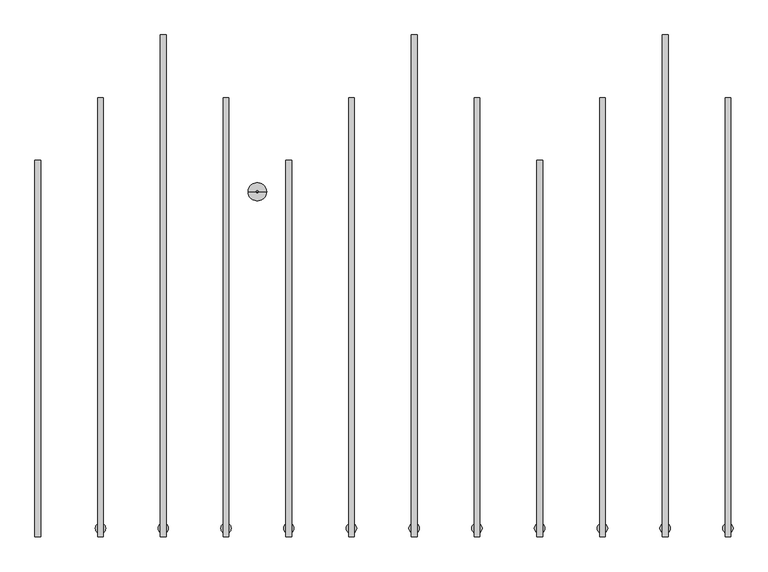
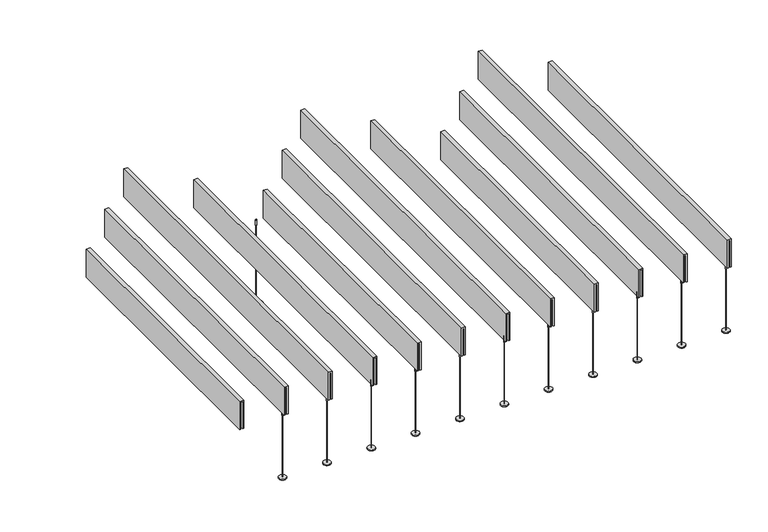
"""IFC4 building model written with IfcOpenShell, lengths in millimetres: light fixture geometry, Lighting_Fixture-Focal_Point-AirCore_Bridge-Cantilever_Wave-Seem_1_LED : FSM1SBW125LF30K1CUNVLD1J24_."""

from ifc_helpers import new_model, si_unit, point, frame, frame_2d, origin, origin_with_axes, place, context, project, spatial, polyline, circle_curve, trimmed, segment, composite_curve, outline, extrude, source, transform, mapped, element, save
from ifc_brep_helpers import plane_surface, cylinder_surface, advanced_brep


def light_fixture_4ed38560(model_context):
    return source(origin(), model_context, "Body", "SolidModel", [
        advanced_brep(
        [(1065.8762465, -1635.125, 0.0), (1067.7237535, -1635.125, 0.0), (1066.8, -1635.125, 0.0), (1065.8762465, -1635.125, 454.6203125), (1067.7237535, -1635.125, 454.6203125), (1062.83125, -1635.125, 454.6203125), (1070.76875, -1635.125, 454.6203125), (1062.83125, -1635.125, 499.0703125), (1070.76875, -1635.125, 499.0703125), (1066.8, -1635.125, 499.0703125)],
        [
            (0, 1, circle_curve(frame((1066.8, -1635.125, 0.0), z_axis=(0.0, 0.0, -1.0), x_axis=(1.0, 0.0, 0.0)), 0.9237535)),
            (1, 2),
            (2, 0),
            (1, 0, circle_curve(frame((1066.8, -1635.125, 0.0), z_axis=(0.0, 0.0, -1.0), x_axis=(1.0, 0.0, 0.0)), 0.9237535)),
            (3, 4, circle_curve(frame((1066.8, -1635.125, 454.6203125), z_axis=(0.0, 0.0, -1.0), x_axis=(1.0, 0.0, 0.0)), 0.9237535)),
            (4, 1),
            (0, 3),
            (4, 3, circle_curve(frame((1066.8, -1635.125, 454.6203125), z_axis=(0.0, 0.0, -1.0), x_axis=(1.0, 0.0, 0.0)), 0.9237535)),
            (5, 6, circle_curve(frame((1066.8, -1635.125, 454.6203125), z_axis=(0.0, 0.0, -1.0), x_axis=(1.0, 0.0, 0.0)), 3.96875)),
            (6, 4),
            (3, 5),
            (6, 5, circle_curve(frame((1066.8, -1635.125, 454.6203125), z_axis=(0.0, 0.0, -1.0), x_axis=(1.0, 0.0, 0.0)), 3.96875)),
            (7, 8, circle_curve(frame((1066.8, -1635.125, 499.0703125), z_axis=(0.0, 0.0, -1.0), x_axis=(1.0, 0.0, 0.0)), 3.96875)),
            (8, 6),
            (5, 7),
            (8, 7, circle_curve(frame((1066.8, -1635.125, 499.0703125), z_axis=(0.0, 0.0, -1.0), x_axis=(1.0, 0.0, 0.0)), 3.96875)),
            (9, 8),
            (7, 9),
        ],
        [
            plane_surface(frame((1066.8, -1635.125, 0.0), z_axis=(0.0, 0.0, -1.0), x_axis=(1.0, 0.0, 0.0))),
            cylinder_surface(frame((1066.8, -1635.125, 543.5203125), z_axis=(0.0, 0.0, 1.0), x_axis=(1.0, 0.0, 0.0)), 0.9237535),
            plane_surface(frame((1066.8, -1635.125, 454.6203125), z_axis=(0.0, 0.0, -1.0), x_axis=(1.0, 0.0, 0.0))),
            cylinder_surface(frame((1066.8, -1635.125, 543.5203125), z_axis=(0.0, 0.0, 1.0), x_axis=(1.0, 0.0, 0.0)), 3.96875),
            plane_surface(frame((1066.8, -1635.125, 499.0703125), z_axis=(0.0, 0.0, 1.0), x_axis=(1.0, 0.0, 0.0))),
        ],
        [
            (0, [[1, 2, 3]]),
            (0, [[4, -3, -2]]),
            (1, [[5, 6, -1, 7]]),
            (1, [[8, -7, -4, -6]]),
            (2, [[9, 10, -5, 11]]),
            (2, [[12, -11, -8, -10]]),
            (3, [[13, 14, -9, 15]]),
            (3, [[16, -15, -12, -14]]),
            (4, [[17, -13, 18]]),
            (4, [[-18, -16, -17]]),
        ],
    ),
        extrude(outline(composite_curve([segment(trimmed(circle_curve(frame_2d((1066.8, -1635.125)), 25.4), [point((1066.8, -1660.525))], [point((1066.8, -1609.725))], False, "CARTESIAN"), True, "CONTINUOUS"), segment(trimmed(circle_curve(frame_2d((1066.8, -1635.125)), 25.4), [point((1066.8, -1609.725))], [point((1066.8, -1660.525))], False, "CARTESIAN"), True, "CONTINUOUS")], self_intersect=False)), origin_with_axes(), (0.0, 0.0, 1.0), 6.35),
        advanced_brep(
        [(761.0762465, -1635.125, 0.0), (762.9237535, -1635.125, 0.0), (762.0, -1635.125, 0.0), (761.0762465, -1635.125, 454.6203125), (762.9237535, -1635.125, 454.6203125), (758.03125, -1635.125, 454.6203125), (765.96875, -1635.125, 454.6203125), (758.03125, -1635.125, 499.0703125), (765.96875, -1635.125, 499.0703125), (762.0, -1635.125, 499.0703125)],
        [
            (0, 1, circle_curve(frame((762.0, -1635.125, 0.0), z_axis=(0.0, 0.0, -1.0), x_axis=(1.0, 0.0, 0.0)), 0.9237535)),
            (1, 2),
            (2, 0),
            (1, 0, circle_curve(frame((762.0, -1635.125, 0.0), z_axis=(0.0, 0.0, -1.0), x_axis=(1.0, 0.0, 0.0)), 0.9237535)),
            (3, 4, circle_curve(frame((762.0, -1635.125, 454.6203125), z_axis=(0.0, 0.0, -1.0), x_axis=(1.0, 0.0, 0.0)), 0.9237535)),
            (4, 1),
            (0, 3),
            (4, 3, circle_curve(frame((762.0, -1635.125, 454.6203125), z_axis=(0.0, 0.0, -1.0), x_axis=(1.0, 0.0, 0.0)), 0.9237535)),
            (5, 6, circle_curve(frame((762.0, -1635.125, 454.6203125), z_axis=(0.0, 0.0, -1.0), x_axis=(1.0, 0.0, 0.0)), 3.96875)),
            (6, 4),
            (3, 5),
            (6, 5, circle_curve(frame((762.0, -1635.125, 454.6203125), z_axis=(0.0, 0.0, -1.0), x_axis=(1.0, 0.0, 0.0)), 3.96875)),
            (7, 8, circle_curve(frame((762.0, -1635.125, 499.0703125), z_axis=(0.0, 0.0, -1.0), x_axis=(1.0, 0.0, 0.0)), 3.96875)),
            (8, 6),
            (5, 7),
            (8, 7, circle_curve(frame((762.0, -1635.125, 499.0703125), z_axis=(0.0, 0.0, -1.0), x_axis=(1.0, 0.0, 0.0)), 3.96875)),
            (9, 8),
            (7, 9),
        ],
        [
            plane_surface(frame((762.0, -1635.125, 0.0), z_axis=(0.0, 0.0, -1.0), x_axis=(1.0, 0.0, 0.0))),
            cylinder_surface(frame((762.0, -1635.125, 543.5203125), z_axis=(0.0, 0.0, 1.0), x_axis=(1.0, 0.0, 0.0)), 0.9237535),
            plane_surface(frame((762.0, -1635.125, 454.6203125), z_axis=(0.0, 0.0, -1.0), x_axis=(1.0, 0.0, 0.0))),
            cylinder_surface(frame((762.0, -1635.125, 543.5203125), z_axis=(0.0, 0.0, 1.0), x_axis=(1.0, 0.0, 0.0)), 3.96875),
            plane_surface(frame((762.0, -1635.125, 499.0703125), z_axis=(0.0, 0.0, 1.0), x_axis=(1.0, 0.0, 0.0))),
        ],
        [
            (0, [[1, 2, 3]]),
            (0, [[4, -3, -2]]),
            (1, [[5, 6, -1, 7]]),
            (1, [[8, -7, -4, -6]]),
            (2, [[9, 10, -5, 11]]),
            (2, [[12, -11, -8, -10]]),
            (3, [[13, 14, -9, 15]]),
            (3, [[16, -15, -12, -14]]),
            (4, [[17, -13, 18]]),
            (4, [[-18, -16, -17]]),
        ],
    ),
        extrude(outline(composite_curve([segment(trimmed(circle_curve(frame_2d((762.0, -1635.125)), 25.4), [point((762.0, -1660.525))], [point((762.0, -1609.725))], False, "CARTESIAN"), True, "CONTINUOUS"), segment(trimmed(circle_curve(frame_2d((762.0, -1635.125)), 25.4), [point((762.0, -1609.725))], [point((762.0, -1660.525))], False, "CARTESIAN"), True, "CONTINUOUS")], self_intersect=False)), origin_with_axes(), (0.0, 0.0, 1.0), 6.35),
        advanced_brep(
        [(456.2762465, -1635.125, 0.0), (458.1237535, -1635.125, 0.0), (457.2, -1635.125, 0.0), (456.2762465, -1635.125, 454.6203125), (458.1237535, -1635.125, 454.6203125), (453.23125, -1635.125, 454.6203125), (461.16875, -1635.125, 454.6203125), (453.23125, -1635.125, 499.0703125), (461.16875, -1635.125, 499.0703125), (457.2, -1635.125, 499.0703125)],
        [
            (0, 1, circle_curve(frame((457.2, -1635.125, 0.0), z_axis=(0.0, 0.0, -1.0), x_axis=(1.0, 0.0, 0.0)), 0.9237535)),
            (1, 2),
            (2, 0),
            (1, 0, circle_curve(frame((457.2, -1635.125, 0.0), z_axis=(0.0, 0.0, -1.0), x_axis=(1.0, 0.0, 0.0)), 0.9237535)),
            (3, 4, circle_curve(frame((457.2, -1635.125, 454.6203125), z_axis=(0.0, 0.0, -1.0), x_axis=(1.0, 0.0, 0.0)), 0.9237535)),
            (4, 1),
            (0, 3),
            (4, 3, circle_curve(frame((457.2, -1635.125, 454.6203125), z_axis=(0.0, 0.0, -1.0), x_axis=(1.0, 0.0, 0.0)), 0.9237535)),
            (5, 6, circle_curve(frame((457.2, -1635.125, 454.6203125), z_axis=(0.0, 0.0, -1.0), x_axis=(1.0, 0.0, 0.0)), 3.96875)),
            (6, 4),
            (3, 5),
            (6, 5, circle_curve(frame((457.2, -1635.125, 454.6203125), z_axis=(0.0, 0.0, -1.0), x_axis=(1.0, 0.0, 0.0)), 3.96875)),
            (7, 8, circle_curve(frame((457.2, -1635.125, 499.0703125), z_axis=(0.0, 0.0, -1.0), x_axis=(1.0, 0.0, 0.0)), 3.96875)),
            (8, 6),
            (5, 7),
            (8, 7, circle_curve(frame((457.2, -1635.125, 499.0703125), z_axis=(0.0, 0.0, -1.0), x_axis=(1.0, 0.0, 0.0)), 3.96875)),
            (9, 8),
            (7, 9),
        ],
        [
            plane_surface(frame((457.2, -1635.125, 0.0), z_axis=(0.0, 0.0, -1.0), x_axis=(1.0, 0.0, 0.0))),
            cylinder_surface(frame((457.2, -1635.125, 543.5203125), z_axis=(0.0, 0.0, 1.0), x_axis=(1.0, 0.0, 0.0)), 0.9237535),
            plane_surface(frame((457.2, -1635.125, 454.6203125), z_axis=(0.0, 0.0, -1.0), x_axis=(1.0, 0.0, 0.0))),
            cylinder_surface(frame((457.2, -1635.125, 543.5203125), z_axis=(0.0, 0.0, 1.0), x_axis=(1.0, 0.0, 0.0)), 3.96875),
            plane_surface(frame((457.2, -1635.125, 499.0703125), z_axis=(0.0, 0.0, 1.0), x_axis=(1.0, 0.0, 0.0))),
        ],
        [
            (0, [[1, 2, 3]]),
            (0, [[4, -3, -2]]),
            (1, [[5, 6, -1, 7]]),
            (1, [[8, -7, -4, -6]]),
            (2, [[9, 10, -5, 11]]),
            (2, [[12, -11, -8, -10]]),
            (3, [[13, 14, -9, 15]]),
            (3, [[16, -15, -12, -14]]),
            (4, [[17, -13, 18]]),
            (4, [[-18, -16, -17]]),
        ],
    ),
        extrude(outline(composite_curve([segment(trimmed(circle_curve(frame_2d((457.2, -1635.125)), 25.4), [point((457.2, -1660.525))], [point((457.2, -1609.725))], False, "CARTESIAN"), True, "CONTINUOUS"), segment(trimmed(circle_curve(frame_2d((457.2, -1635.125)), 25.4), [point((457.2, -1609.725))], [point((457.2, -1660.525))], False, "CARTESIAN"), True, "CONTINUOUS")], self_intersect=False)), origin_with_axes(), (0.0, 0.0, 1.0), 6.35),
        extrude(outline(polyline([(1060.846875, 428.625), (1072.753125, 428.625), (1072.753125, -1647.825), (1060.846875, -1647.825), (1060.846875, 428.625)])), frame((0.0, 0.0, 486.3703125), z_axis=(0.0, 0.0, 1.0), x_axis=(1.0, 0.0, 0.0)), (0.0, 0.0, 1.0), 195.2625),
        extrude(outline(polyline([(689.5703125, 1080.690625), (689.5703125, 1052.909375), (486.3703125, 1052.909375), (486.3703125, 1060.846875), (681.6328125, 1060.846875), (681.6328125, 1072.753125), (486.3703125, 1072.753125), (486.3703125, 1080.690625), (689.5703125, 1080.690625)])), frame((0.0, -1676.4, 0.0), z_axis=(0.0, 1.0, 0.0), x_axis=(0.0, 0.0, 1.0)), (0.0, 0.0, 1.0), 2133.6),
        extrude(outline(polyline([(756.046875, 733.425), (767.953125, 733.425), (767.953125, -1647.825), (756.046875, -1647.825), (756.046875, 733.425)])), frame((0.0, 0.0, 486.3703125), z_axis=(0.0, 0.0, 1.0), x_axis=(1.0, 0.0, 0.0)), (0.0, 0.0, 1.0), 195.2625),
        extrude(outline(polyline([(689.5703125, 775.890625), (689.5703125, 748.109375), (486.3703125, 748.109375), (486.3703125, 756.046875), (681.6328125, 756.046875), (681.6328125, 767.953125), (486.3703125, 767.953125), (486.3703125, 775.890625), (689.5703125, 775.890625)])), frame((0.0, -1676.4, 0.0), z_axis=(0.0, 1.0, 0.0), x_axis=(0.0, 0.0, 1.0)), (0.0, 0.0, 1.0), 2438.4),
        extrude(outline(polyline([(451.246875, 428.625), (463.153125, 428.625), (463.153125, -1647.825), (451.246875, -1647.825), (451.246875, 428.625)])), frame((0.0, 0.0, 486.3703125), z_axis=(0.0, 0.0, 1.0), x_axis=(1.0, 0.0, 0.0)), (0.0, 0.0, 1.0), 195.2625),
        extrude(outline(polyline([(689.5703125, 471.090625), (689.5703125, 443.309375), (486.3703125, 443.309375), (486.3703125, 451.246875), (681.6328125, 451.246875), (681.6328125, 463.153125), (486.3703125, 463.153125), (486.3703125, 471.090625), (689.5703125, 471.090625)])), frame((0.0, -1676.4, 0.0), z_axis=(0.0, 1.0, 0.0), x_axis=(0.0, 0.0, 1.0)), (0.0, 0.0, 1.0), 2133.6),
        extrude(outline(polyline([(146.446875, 123.825), (158.353125, 123.825), (158.353125, -1647.825), (146.446875, -1647.825), (146.446875, 123.825)])), frame((0.0, 0.0, 486.3703125), z_axis=(0.0, 0.0, 1.0), x_axis=(1.0, 0.0, 0.0)), (0.0, 0.0, 1.0), 195.2625),
        extrude(outline(polyline([(689.5703125, 166.290625), (689.5703125, 138.509375), (486.3703125, 138.509375), (486.3703125, 146.446875), (681.6328125, 146.446875), (681.6328125, 158.353125), (486.3703125, 158.353125), (486.3703125, 166.290625), (689.5703125, 166.290625)])), frame((0.0, -1676.4, 0.0), z_axis=(0.0, 1.0, 0.0), x_axis=(0.0, 0.0, 1.0)), (0.0, 0.0, 1.0), 1828.8),
        advanced_brep(
        [(151.4762465, -1635.125, 0.0), (153.3237535, -1635.125, 0.0), (152.4, -1635.125, 0.0), (151.4762465, -1635.125, 454.6203125), (153.3237535, -1635.125, 454.6203125), (148.43125, -1635.125, 454.6203125), (156.36875, -1635.125, 454.6203125), (148.43125, -1635.125, 499.0703125), (156.36875, -1635.125, 499.0703125), (152.4, -1635.125, 499.0703125)],
        [
            (0, 1, circle_curve(frame((152.4, -1635.125, 0.0), z_axis=(0.0, 0.0, -1.0), x_axis=(1.0, 0.0, 0.0)), 0.9237535)),
            (1, 2),
            (2, 0),
            (1, 0, circle_curve(frame((152.4, -1635.125, 0.0), z_axis=(0.0, 0.0, -1.0), x_axis=(1.0, 0.0, 0.0)), 0.9237535)),
            (3, 4, circle_curve(frame((152.4, -1635.125, 454.6203125), z_axis=(0.0, 0.0, -1.0), x_axis=(1.0, 0.0, 0.0)), 0.9237535)),
            (4, 1),
            (0, 3),
            (4, 3, circle_curve(frame((152.4, -1635.125, 454.6203125), z_axis=(0.0, 0.0, -1.0), x_axis=(1.0, 0.0, 0.0)), 0.9237535)),
            (5, 6, circle_curve(frame((152.4, -1635.125, 454.6203125), z_axis=(0.0, 0.0, -1.0), x_axis=(1.0, 0.0, 0.0)), 3.96875)),
            (6, 4),
            (3, 5),
            (6, 5, circle_curve(frame((152.4, -1635.125, 454.6203125), z_axis=(0.0, 0.0, -1.0), x_axis=(1.0, 0.0, 0.0)), 3.96875)),
            (7, 8, circle_curve(frame((152.4, -1635.125, 499.0703125), z_axis=(0.0, 0.0, -1.0), x_axis=(1.0, 0.0, 0.0)), 3.96875)),
            (8, 6),
            (5, 7),
            (8, 7, circle_curve(frame((152.4, -1635.125, 499.0703125), z_axis=(0.0, 0.0, -1.0), x_axis=(1.0, 0.0, 0.0)), 3.96875)),
            (9, 8),
            (7, 9),
        ],
        [
            plane_surface(frame((152.4, -1635.125, 0.0), z_axis=(0.0, 0.0, -1.0), x_axis=(1.0, 0.0, 0.0))),
            cylinder_surface(frame((152.4, -1635.125, 543.5203125), z_axis=(0.0, 0.0, 1.0), x_axis=(1.0, 0.0, 0.0)), 0.9237535),
            plane_surface(frame((152.4, -1635.125, 454.6203125), z_axis=(0.0, 0.0, -1.0), x_axis=(1.0, 0.0, 0.0))),
            cylinder_surface(frame((152.4, -1635.125, 543.5203125), z_axis=(0.0, 0.0, 1.0), x_axis=(1.0, 0.0, 0.0)), 3.96875),
            plane_surface(frame((152.4, -1635.125, 499.0703125), z_axis=(0.0, 0.0, 1.0), x_axis=(1.0, 0.0, 0.0))),
        ],
        [
            (0, [[1, 2, 3]]),
            (0, [[4, -3, -2]]),
            (1, [[5, 6, -1, 7]]),
            (1, [[8, -7, -4, -6]]),
            (2, [[9, 10, -5, 11]]),
            (2, [[12, -11, -8, -10]]),
            (3, [[13, 14, -9, 15]]),
            (3, [[16, -15, -12, -14]]),
            (4, [[17, -13, 18]]),
            (4, [[-18, -16, -17]]),
        ],
    ),
        extrude(outline(composite_curve([segment(trimmed(circle_curve(frame_2d((152.4, -1635.125)), 25.4), [point((152.4, -1660.525))], [point((152.4, -1609.725))], False, "CARTESIAN"), True, "CONTINUOUS"), segment(trimmed(circle_curve(frame_2d((152.4, -1635.125)), 25.4), [point((152.4, -1609.725))], [point((152.4, -1660.525))], False, "CARTESIAN"), True, "CONTINUOUS")], self_intersect=False)), origin_with_axes(), (0.0, 0.0, 1.0), 6.35),
        advanced_brep(
        [(2.1602631, 0.0, 6.35), (-2.1602631, 0.0, 6.35), (-2.1602631, 0.0, 578.5929436), (2.1602631, 0.0, 578.5929436), (4.6304584, 0.0, 617.2870305), (-4.6304584, 0.0, 617.2870305), (0.0, 0.0, 617.2870305), (4.6304584, 0.0, 578.5929436), (-4.6304584, 0.0, 578.5929436), (44.45, 0.0, 6.35), (-44.45, 0.0, 6.35), (44.45, 0.0, 0.0), (-44.45, 0.0, 0.0), (0.0, 0.0, 0.0)],
        [
            (0, 1, circle_curve(frame((0.0, 0.0, 6.35), z_axis=(0.0, 0.0, 1.0), x_axis=(-1.0, 0.0, 0.0)), 2.1602631)),
            (1, 2),
            (2, 3, circle_curve(frame((0.0, 0.0, 578.5929436), z_axis=(0.0, 0.0, -1.0), x_axis=(-1.0, 0.0, 0.0)), 2.1602631)),
            (3, 0),
            (1, 0, circle_curve(frame((0.0, 0.0, 6.35), z_axis=(0.0, 0.0, 1.0), x_axis=(-1.0, 0.0, 0.0)), 2.1602631)),
            (3, 2, circle_curve(frame((0.0, 0.0, 578.5929436), z_axis=(0.0, 0.0, -1.0), x_axis=(-1.0, 0.0, 0.0)), 2.1602631)),
            (4, 5, circle_curve(frame((0.0, 0.0, 617.2870305), z_axis=(0.0, 0.0, 1.0), x_axis=(-1.0, 0.0, 0.0)), 4.6304584)),
            (5, 6),
            (6, 4),
            (5, 4, circle_curve(frame((0.0, 0.0, 617.2870305), z_axis=(0.0, 0.0, 1.0), x_axis=(-1.0, 0.0, 0.0)), 4.6304584)),
            (7, 8, circle_curve(frame((0.0, 0.0, 578.5929436), z_axis=(0.0, 0.0, 1.0), x_axis=(-1.0, 0.0, 0.0)), 4.6304584)),
            (8, 5),
            (4, 7),
            (8, 7, circle_curve(frame((0.0, 0.0, 578.5929436), z_axis=(0.0, 0.0, 1.0), x_axis=(-1.0, 0.0, 0.0)), 4.6304584)),
            (2, 8),
            (7, 3),
            (9, 10, circle_curve(frame((0.0, 0.0, 6.35), z_axis=(0.0, 0.0, 1.0), x_axis=(-1.0, 0.0, 0.0)), 44.45)),
            (10, 1),
            (0, 9),
            (10, 9, circle_curve(frame((0.0, 0.0, 6.35), z_axis=(0.0, 0.0, 1.0), x_axis=(-1.0, 0.0, 0.0)), 44.45)),
            (11, 12, circle_curve(frame((0.0, 0.0, 0.0), z_axis=(0.0, 0.0, 1.0), x_axis=(-1.0, 0.0, 0.0)), 44.45)),
            (12, 10),
            (9, 11),
            (12, 11, circle_curve(frame((0.0, 0.0, 0.0), z_axis=(0.0, 0.0, 1.0), x_axis=(-1.0, 0.0, 0.0)), 44.45)),
            (13, 12),
            (11, 13),
        ],
        [
            cylinder_surface(frame((0.0, 0.0, 1013.5679436), z_axis=(0.0, 0.0, -1.0), x_axis=(-1.0, 0.0, 0.0)), 2.1602631),
            plane_surface(frame((0.0, 0.0, 617.2870305), z_axis=(0.0, 0.0, 1.0), x_axis=(-1.0, 0.0, 0.0))),
            cylinder_surface(frame((0.0, 0.0, 1013.5679436), z_axis=(0.0, 0.0, -1.0), x_axis=(-1.0, 0.0, 0.0)), 4.6304584),
            plane_surface(frame((0.0, 0.0, 578.5929436), z_axis=(0.0, 0.0, -1.0), x_axis=(-1.0, 0.0, 0.0))),
            plane_surface(frame((0.0, 0.0, 6.35), z_axis=(0.0, 0.0, 1.0), x_axis=(-1.0, 0.0, 0.0))),
            cylinder_surface(frame((0.0, 0.0, 1013.5679436), z_axis=(0.0, 0.0, -1.0), x_axis=(-1.0, 0.0, 0.0)), 44.45),
            plane_surface(frame((0.0, 0.0, 0.0), z_axis=(0.0, 0.0, -1.0), x_axis=(-1.0, 0.0, 0.0))),
        ],
        [
            (0, [[1, 2, 3, 4]]),
            (0, [[5, -4, 6, -2]]),
            (1, [[7, 8, 9]]),
            (1, [[10, -9, -8]]),
            (2, [[11, 12, -7, 13]]),
            (2, [[14, -13, -10, -12]]),
            (3, [[-3, 15, -11, 16]]),
            (3, [[-6, -16, -14, -15]]),
            (4, [[17, 18, -1, 19]]),
            (4, [[20, -19, -5, -18]]),
            (5, [[21, 22, -17, 23]]),
            (5, [[24, -23, -20, -22]]),
            (6, [[25, -21, 26]]),
            (6, [[-26, -24, -25]]),
        ],
    ),
        advanced_brep(
        [(2285.0762465, -1635.125, 0.0), (2286.9237535, -1635.125, 0.0), (2286.0, -1635.125, 0.0), (2285.0762465, -1635.125, 454.6203125), (2286.9237535, -1635.125, 454.6203125), (2282.03125, -1635.125, 454.6203125), (2289.96875, -1635.125, 454.6203125), (2282.03125, -1635.125, 499.0703125), (2289.96875, -1635.125, 499.0703125), (2286.0, -1635.125, 499.0703125)],
        [
            (0, 1, circle_curve(frame((2286.0, -1635.125, 0.0), z_axis=(0.0, 0.0, -1.0), x_axis=(1.0, 0.0, 0.0)), 0.9237535)),
            (1, 2),
            (2, 0),
            (1, 0, circle_curve(frame((2286.0, -1635.125, 0.0), z_axis=(0.0, 0.0, -1.0), x_axis=(1.0, 0.0, 0.0)), 0.9237535)),
            (3, 4, circle_curve(frame((2286.0, -1635.125, 454.6203125), z_axis=(0.0, 0.0, -1.0), x_axis=(1.0, 0.0, 0.0)), 0.9237535)),
            (4, 1),
            (0, 3),
            (4, 3, circle_curve(frame((2286.0, -1635.125, 454.6203125), z_axis=(0.0, 0.0, -1.0), x_axis=(1.0, 0.0, 0.0)), 0.9237535)),
            (5, 6, circle_curve(frame((2286.0, -1635.125, 454.6203125), z_axis=(0.0, 0.0, -1.0), x_axis=(1.0, 0.0, 0.0)), 3.96875)),
            (6, 4),
            (3, 5),
            (6, 5, circle_curve(frame((2286.0, -1635.125, 454.6203125), z_axis=(0.0, 0.0, -1.0), x_axis=(1.0, 0.0, 0.0)), 3.96875)),
            (7, 8, circle_curve(frame((2286.0, -1635.125, 499.0703125), z_axis=(0.0, 0.0, -1.0), x_axis=(1.0, 0.0, 0.0)), 3.96875)),
            (8, 6),
            (5, 7),
            (8, 7, circle_curve(frame((2286.0, -1635.125, 499.0703125), z_axis=(0.0, 0.0, -1.0), x_axis=(1.0, 0.0, 0.0)), 3.96875)),
            (9, 8),
            (7, 9),
        ],
        [
            plane_surface(frame((2286.0, -1635.125, 0.0), z_axis=(0.0, 0.0, -1.0), x_axis=(1.0, 0.0, 0.0))),
            cylinder_surface(frame((2286.0, -1635.125, 543.5203125), z_axis=(0.0, 0.0, 1.0), x_axis=(1.0, 0.0, 0.0)), 0.9237535),
            plane_surface(frame((2286.0, -1635.125, 454.6203125), z_axis=(0.0, 0.0, -1.0), x_axis=(1.0, 0.0, 0.0))),
            cylinder_surface(frame((2286.0, -1635.125, 543.5203125), z_axis=(0.0, 0.0, 1.0), x_axis=(1.0, 0.0, 0.0)), 3.96875),
            plane_surface(frame((2286.0, -1635.125, 499.0703125), z_axis=(0.0, 0.0, 1.0), x_axis=(1.0, 0.0, 0.0))),
        ],
        [
            (0, [[1, 2, 3]]),
            (0, [[4, -3, -2]]),
            (1, [[5, 6, -1, 7]]),
            (1, [[8, -7, -4, -6]]),
            (2, [[9, 10, -5, 11]]),
            (2, [[12, -11, -8, -10]]),
            (3, [[13, 14, -9, 15]]),
            (3, [[16, -15, -12, -14]]),
            (4, [[17, -13, 18]]),
            (4, [[-18, -16, -17]]),
        ],
    ),
        extrude(outline(composite_curve([segment(trimmed(circle_curve(frame_2d((2286.0, -1635.125)), 25.4), [point((2286.0, -1660.525))], [point((2286.0, -1609.725))], False, "CARTESIAN"), True, "CONTINUOUS"), segment(trimmed(circle_curve(frame_2d((2286.0, -1635.125)), 25.4), [point((2286.0, -1609.725))], [point((2286.0, -1660.525))], False, "CARTESIAN"), True, "CONTINUOUS")], self_intersect=False)), origin_with_axes(), (0.0, 0.0, 1.0), 6.35),
        advanced_brep(
        [(1980.2762465, -1635.125, 0.0), (1982.1237535, -1635.125, 0.0), (1981.2, -1635.125, 0.0), (1980.2762465, -1635.125, 454.6203125), (1982.1237535, -1635.125, 454.6203125), (1977.23125, -1635.125, 454.6203125), (1985.16875, -1635.125, 454.6203125), (1977.23125, -1635.125, 499.0703125), (1985.16875, -1635.125, 499.0703125), (1981.2, -1635.125, 499.0703125)],
        [
            (0, 1, circle_curve(frame((1981.2, -1635.125, 0.0), z_axis=(0.0, 0.0, -1.0), x_axis=(1.0, 0.0, 0.0)), 0.9237535)),
            (1, 2),
            (2, 0),
            (1, 0, circle_curve(frame((1981.2, -1635.125, 0.0), z_axis=(0.0, 0.0, -1.0), x_axis=(1.0, 0.0, 0.0)), 0.9237535)),
            (3, 4, circle_curve(frame((1981.2, -1635.125, 454.6203125), z_axis=(0.0, 0.0, -1.0), x_axis=(1.0, 0.0, 0.0)), 0.9237535)),
            (4, 1),
            (0, 3),
            (4, 3, circle_curve(frame((1981.2, -1635.125, 454.6203125), z_axis=(0.0, 0.0, -1.0), x_axis=(1.0, 0.0, 0.0)), 0.9237535)),
            (5, 6, circle_curve(frame((1981.2, -1635.125, 454.6203125), z_axis=(0.0, 0.0, -1.0), x_axis=(1.0, 0.0, 0.0)), 3.96875)),
            (6, 4),
            (3, 5),
            (6, 5, circle_curve(frame((1981.2, -1635.125, 454.6203125), z_axis=(0.0, 0.0, -1.0), x_axis=(1.0, 0.0, 0.0)), 3.96875)),
            (7, 8, circle_curve(frame((1981.2, -1635.125, 499.0703125), z_axis=(0.0, 0.0, -1.0), x_axis=(1.0, 0.0, 0.0)), 3.96875)),
            (8, 6),
            (5, 7),
            (8, 7, circle_curve(frame((1981.2, -1635.125, 499.0703125), z_axis=(0.0, 0.0, -1.0), x_axis=(1.0, 0.0, 0.0)), 3.96875)),
            (9, 8),
            (7, 9),
        ],
        [
            plane_surface(frame((1981.2, -1635.125, 0.0), z_axis=(0.0, 0.0, -1.0), x_axis=(1.0, 0.0, 0.0))),
            cylinder_surface(frame((1981.2, -1635.125, 543.5203125), z_axis=(0.0, 0.0, 1.0), x_axis=(1.0, 0.0, 0.0)), 0.9237535),
            plane_surface(frame((1981.2, -1635.125, 454.6203125), z_axis=(0.0, 0.0, -1.0), x_axis=(1.0, 0.0, 0.0))),
            cylinder_surface(frame((1981.2, -1635.125, 543.5203125), z_axis=(0.0, 0.0, 1.0), x_axis=(1.0, 0.0, 0.0)), 3.96875),
            plane_surface(frame((1981.2, -1635.125, 499.0703125), z_axis=(0.0, 0.0, 1.0), x_axis=(1.0, 0.0, 0.0))),
        ],
        [
            (0, [[1, 2, 3]]),
            (0, [[4, -3, -2]]),
            (1, [[5, 6, -1, 7]]),
            (1, [[8, -7, -4, -6]]),
            (2, [[9, 10, -5, 11]]),
            (2, [[12, -11, -8, -10]]),
            (3, [[13, 14, -9, 15]]),
            (3, [[16, -15, -12, -14]]),
            (4, [[17, -13, 18]]),
            (4, [[-18, -16, -17]]),
        ],
    ),
        extrude(outline(composite_curve([segment(trimmed(circle_curve(frame_2d((1981.2, -1635.125)), 25.4), [point((1981.2, -1660.525))], [point((1981.2, -1609.725))], False, "CARTESIAN"), True, "CONTINUOUS"), segment(trimmed(circle_curve(frame_2d((1981.2, -1635.125)), 25.4), [point((1981.2, -1609.725))], [point((1981.2, -1660.525))], False, "CARTESIAN"), True, "CONTINUOUS")], self_intersect=False)), origin_with_axes(), (0.0, 0.0, 1.0), 6.35),
        advanced_brep(
        [(1675.4762465, -1635.125, 0.0), (1677.3237535, -1635.125, 0.0), (1676.4, -1635.125, 0.0), (1675.4762465, -1635.125, 454.6203125), (1677.3237535, -1635.125, 454.6203125), (1672.43125, -1635.125, 454.6203125), (1680.36875, -1635.125, 454.6203125), (1672.43125, -1635.125, 499.0703125), (1680.36875, -1635.125, 499.0703125), (1676.4, -1635.125, 499.0703125)],
        [
            (0, 1, circle_curve(frame((1676.4, -1635.125, 0.0), z_axis=(0.0, 0.0, -1.0), x_axis=(1.0, 0.0, 0.0)), 0.9237535)),
            (1, 2),
            (2, 0),
            (1, 0, circle_curve(frame((1676.4, -1635.125, 0.0), z_axis=(0.0, 0.0, -1.0), x_axis=(1.0, 0.0, 0.0)), 0.9237535)),
            (3, 4, circle_curve(frame((1676.4, -1635.125, 454.6203125), z_axis=(0.0, 0.0, -1.0), x_axis=(1.0, 0.0, 0.0)), 0.9237535)),
            (4, 1),
            (0, 3),
            (4, 3, circle_curve(frame((1676.4, -1635.125, 454.6203125), z_axis=(0.0, 0.0, -1.0), x_axis=(1.0, 0.0, 0.0)), 0.9237535)),
            (5, 6, circle_curve(frame((1676.4, -1635.125, 454.6203125), z_axis=(0.0, 0.0, -1.0), x_axis=(1.0, 0.0, 0.0)), 3.96875)),
            (6, 4),
            (3, 5),
            (6, 5, circle_curve(frame((1676.4, -1635.125, 454.6203125), z_axis=(0.0, 0.0, -1.0), x_axis=(1.0, 0.0, 0.0)), 3.96875)),
            (7, 8, circle_curve(frame((1676.4, -1635.125, 499.0703125), z_axis=(0.0, 0.0, -1.0), x_axis=(1.0, 0.0, 0.0)), 3.96875)),
            (8, 6),
            (5, 7),
            (8, 7, circle_curve(frame((1676.4, -1635.125, 499.0703125), z_axis=(0.0, 0.0, -1.0), x_axis=(1.0, 0.0, 0.0)), 3.96875)),
            (9, 8),
            (7, 9),
        ],
        [
            plane_surface(frame((1676.4, -1635.125, 0.0), z_axis=(0.0, 0.0, -1.0), x_axis=(1.0, 0.0, 0.0))),
            cylinder_surface(frame((1676.4, -1635.125, 543.5203125), z_axis=(0.0, 0.0, 1.0), x_axis=(1.0, 0.0, 0.0)), 0.9237535),
            plane_surface(frame((1676.4, -1635.125, 454.6203125), z_axis=(0.0, 0.0, -1.0), x_axis=(1.0, 0.0, 0.0))),
            cylinder_surface(frame((1676.4, -1635.125, 543.5203125), z_axis=(0.0, 0.0, 1.0), x_axis=(1.0, 0.0, 0.0)), 3.96875),
            plane_surface(frame((1676.4, -1635.125, 499.0703125), z_axis=(0.0, 0.0, 1.0), x_axis=(1.0, 0.0, 0.0))),
        ],
        [
            (0, [[1, 2, 3]]),
            (0, [[4, -3, -2]]),
            (1, [[5, 6, -1, 7]]),
            (1, [[8, -7, -4, -6]]),
            (2, [[9, 10, -5, 11]]),
            (2, [[12, -11, -8, -10]]),
            (3, [[13, 14, -9, 15]]),
            (3, [[16, -15, -12, -14]]),
            (4, [[17, -13, 18]]),
            (4, [[-18, -16, -17]]),
        ],
    ),
        extrude(outline(composite_curve([segment(trimmed(circle_curve(frame_2d((1676.4, -1635.125)), 25.4), [point((1676.4, -1660.525))], [point((1676.4, -1609.725))], False, "CARTESIAN"), True, "CONTINUOUS"), segment(trimmed(circle_curve(frame_2d((1676.4, -1635.125)), 25.4), [point((1676.4, -1609.725))], [point((1676.4, -1660.525))], False, "CARTESIAN"), True, "CONTINUOUS")], self_intersect=False)), origin_with_axes(), (0.0, 0.0, 1.0), 6.35),
        extrude(outline(polyline([(2280.046875, 428.625), (2291.953125, 428.625), (2291.953125, -1647.825), (2280.046875, -1647.825), (2280.046875, 428.625)])), frame((0.0, 0.0, 486.3703125), z_axis=(0.0, 0.0, 1.0), x_axis=(1.0, 0.0, 0.0)), (0.0, 0.0, 1.0), 195.2625),
        extrude(outline(polyline([(689.5703125, 2299.890625), (689.5703125, 2272.109375), (486.3703125, 2272.109375), (486.3703125, 2280.046875), (681.6328125, 2280.046875), (681.6328125, 2291.953125), (486.3703125, 2291.953125), (486.3703125, 2299.890625), (689.5703125, 2299.890625)])), frame((0.0, -1676.4, 0.0), z_axis=(0.0, 1.0, 0.0), x_axis=(0.0, 0.0, 1.0)), (0.0, 0.0, 1.0), 2133.6),
        extrude(outline(polyline([(1975.246875, 733.425), (1987.153125, 733.425), (1987.153125, -1647.825), (1975.246875, -1647.825), (1975.246875, 733.425)])), frame((0.0, 0.0, 486.3703125), z_axis=(0.0, 0.0, 1.0), x_axis=(1.0, 0.0, 0.0)), (0.0, 0.0, 1.0), 195.2625),
        extrude(outline(polyline([(689.5703125, 1995.090625), (689.5703125, 1967.309375), (486.3703125, 1967.309375), (486.3703125, 1975.246875), (681.6328125, 1975.246875), (681.6328125, 1987.153125), (486.3703125, 1987.153125), (486.3703125, 1995.090625), (689.5703125, 1995.090625)])), frame((0.0, -1676.4, 0.0), z_axis=(0.0, 1.0, 0.0), x_axis=(0.0, 0.0, 1.0)), (0.0, 0.0, 1.0), 2438.4),
        extrude(outline(polyline([(1670.446875, 428.625), (1682.353125, 428.625), (1682.353125, -1647.825), (1670.446875, -1647.825), (1670.446875, 428.625)])), frame((0.0, 0.0, 486.3703125), z_axis=(0.0, 0.0, 1.0), x_axis=(1.0, 0.0, 0.0)), (0.0, 0.0, 1.0), 195.2625),
        extrude(outline(polyline([(689.5703125, 1690.290625), (689.5703125, 1662.509375), (486.3703125, 1662.509375), (486.3703125, 1670.446875), (681.6328125, 1670.446875), (681.6328125, 1682.353125), (486.3703125, 1682.353125), (486.3703125, 1690.290625), (689.5703125, 1690.290625)])), frame((0.0, -1676.4, 0.0), z_axis=(0.0, 1.0, 0.0), x_axis=(0.0, 0.0, 1.0)), (0.0, 0.0, 1.0), 2133.6),
        extrude(outline(polyline([(1365.646875, 123.825), (1377.553125, 123.825), (1377.553125, -1647.825), (1365.646875, -1647.825), (1365.646875, 123.825)])), frame((0.0, 0.0, 486.3703125), z_axis=(0.0, 0.0, 1.0), x_axis=(1.0, 0.0, 0.0)), (0.0, 0.0, 1.0), 195.2625),
        extrude(outline(polyline([(689.5703125, 1385.490625), (689.5703125, 1357.709375), (486.3703125, 1357.709375), (486.3703125, 1365.646875), (681.6328125, 1365.646875), (681.6328125, 1377.553125), (486.3703125, 1377.553125), (486.3703125, 1385.490625), (689.5703125, 1385.490625)])), frame((0.0, -1676.4, 0.0), z_axis=(0.0, 1.0, 0.0), x_axis=(0.0, 0.0, 1.0)), (0.0, 0.0, 1.0), 1828.8),
        advanced_brep(
        [(1370.6762465, -1635.125, 0.0), (1372.5237535, -1635.125, 0.0), (1371.6, -1635.125, 0.0), (1370.6762465, -1635.125, 454.6203125), (1372.5237535, -1635.125, 454.6203125), (1367.63125, -1635.125, 454.6203125), (1375.56875, -1635.125, 454.6203125), (1367.63125, -1635.125, 499.0703125), (1375.56875, -1635.125, 499.0703125), (1371.6, -1635.125, 499.0703125)],
        [
            (0, 1, circle_curve(frame((1371.6, -1635.125, 0.0), z_axis=(0.0, 0.0, -1.0), x_axis=(1.0, 0.0, 0.0)), 0.9237535)),
            (1, 2),
            (2, 0),
            (1, 0, circle_curve(frame((1371.6, -1635.125, 0.0), z_axis=(0.0, 0.0, -1.0), x_axis=(1.0, 0.0, 0.0)), 0.9237535)),
            (3, 4, circle_curve(frame((1371.6, -1635.125, 454.6203125), z_axis=(0.0, 0.0, -1.0), x_axis=(1.0, 0.0, 0.0)), 0.9237535)),
            (4, 1),
            (0, 3),
            (4, 3, circle_curve(frame((1371.6, -1635.125, 454.6203125), z_axis=(0.0, 0.0, -1.0), x_axis=(1.0, 0.0, 0.0)), 0.9237535)),
            (5, 6, circle_curve(frame((1371.6, -1635.125, 454.6203125), z_axis=(0.0, 0.0, -1.0), x_axis=(1.0, 0.0, 0.0)), 3.96875)),
            (6, 4),
            (3, 5),
            (6, 5, circle_curve(frame((1371.6, -1635.125, 454.6203125), z_axis=(0.0, 0.0, -1.0), x_axis=(1.0, 0.0, 0.0)), 3.96875)),
            (7, 8, circle_curve(frame((1371.6, -1635.125, 499.0703125), z_axis=(0.0, 0.0, -1.0), x_axis=(1.0, 0.0, 0.0)), 3.96875)),
            (8, 6),
            (5, 7),
            (8, 7, circle_curve(frame((1371.6, -1635.125, 499.0703125), z_axis=(0.0, 0.0, -1.0), x_axis=(1.0, 0.0, 0.0)), 3.96875)),
            (9, 8),
            (7, 9),
        ],
        [
            plane_surface(frame((1371.6, -1635.125, 0.0), z_axis=(0.0, 0.0, -1.0), x_axis=(1.0, 0.0, 0.0))),
            cylinder_surface(frame((1371.6, -1635.125, 543.5203125), z_axis=(0.0, 0.0, 1.0), x_axis=(1.0, 0.0, 0.0)), 0.9237535),
            plane_surface(frame((1371.6, -1635.125, 454.6203125), z_axis=(0.0, 0.0, -1.0), x_axis=(1.0, 0.0, 0.0))),
            cylinder_surface(frame((1371.6, -1635.125, 543.5203125), z_axis=(0.0, 0.0, 1.0), x_axis=(1.0, 0.0, 0.0)), 3.96875),
            plane_surface(frame((1371.6, -1635.125, 499.0703125), z_axis=(0.0, 0.0, 1.0), x_axis=(1.0, 0.0, 0.0))),
        ],
        [
            (0, [[1, 2, 3]]),
            (0, [[4, -3, -2]]),
            (1, [[5, 6, -1, 7]]),
            (1, [[8, -7, -4, -6]]),
            (2, [[9, 10, -5, 11]]),
            (2, [[12, -11, -8, -10]]),
            (3, [[13, 14, -9, 15]]),
            (3, [[16, -15, -12, -14]]),
            (4, [[17, -13, 18]]),
            (4, [[-18, -16, -17]]),
        ],
    ),
        extrude(outline(composite_curve([segment(trimmed(circle_curve(frame_2d((1371.6, -1635.125)), 25.4), [point((1371.6, -1660.525))], [point((1371.6, -1609.725))], False, "CARTESIAN"), True, "CONTINUOUS"), segment(trimmed(circle_curve(frame_2d((1371.6, -1635.125)), 25.4), [point((1371.6, -1609.725))], [point((1371.6, -1660.525))], False, "CARTESIAN"), True, "CONTINUOUS")], self_intersect=False)), origin_with_axes(), (0.0, 0.0, 1.0), 6.35),
        advanced_brep(
        [(-153.3237535, -1635.125, 0.0), (-151.4762465, -1635.125, 0.0), (-152.4, -1635.125, 0.0), (-153.3237535, -1635.125, 454.6203125), (-151.4762465, -1635.125, 454.6203125), (-156.36875, -1635.125, 454.6203125), (-148.43125, -1635.125, 454.6203125), (-156.36875, -1635.125, 499.0703125), (-148.43125, -1635.125, 499.0703125), (-152.4, -1635.125, 499.0703125)],
        [
            (0, 1, circle_curve(frame((-152.4, -1635.125, 0.0), z_axis=(0.0, 0.0, -1.0), x_axis=(1.0, 0.0, 0.0)), 0.9237535)),
            (1, 2),
            (2, 0),
            (1, 0, circle_curve(frame((-152.4, -1635.125, 0.0), z_axis=(0.0, 0.0, -1.0), x_axis=(1.0, 0.0, 0.0)), 0.9237535)),
            (3, 4, circle_curve(frame((-152.4, -1635.125, 454.6203125), z_axis=(0.0, 0.0, -1.0), x_axis=(1.0, 0.0, 0.0)), 0.9237535)),
            (4, 1),
            (0, 3),
            (4, 3, circle_curve(frame((-152.4, -1635.125, 454.6203125), z_axis=(0.0, 0.0, -1.0), x_axis=(1.0, 0.0, 0.0)), 0.9237535)),
            (5, 6, circle_curve(frame((-152.4, -1635.125, 454.6203125), z_axis=(0.0, 0.0, -1.0), x_axis=(1.0, 0.0, 0.0)), 3.96875)),
            (6, 4),
            (3, 5),
            (6, 5, circle_curve(frame((-152.4, -1635.125, 454.6203125), z_axis=(0.0, 0.0, -1.0), x_axis=(1.0, 0.0, 0.0)), 3.96875)),
            (7, 8, circle_curve(frame((-152.4, -1635.125, 499.0703125), z_axis=(0.0, 0.0, -1.0), x_axis=(1.0, 0.0, 0.0)), 3.96875)),
            (8, 6),
            (5, 7),
            (8, 7, circle_curve(frame((-152.4, -1635.125, 499.0703125), z_axis=(0.0, 0.0, -1.0), x_axis=(1.0, 0.0, 0.0)), 3.96875)),
            (9, 8),
            (7, 9),
        ],
        [
            plane_surface(frame((-152.4, -1635.125, 0.0), z_axis=(0.0, 0.0, -1.0), x_axis=(1.0, 0.0, 0.0))),
            cylinder_surface(frame((-152.4, -1635.125, 543.5203125), z_axis=(0.0, 0.0, 1.0), x_axis=(1.0, 0.0, 0.0)), 0.9237535),
            plane_surface(frame((-152.4, -1635.125, 454.6203125), z_axis=(0.0, 0.0, -1.0), x_axis=(1.0, 0.0, 0.0))),
            cylinder_surface(frame((-152.4, -1635.125, 543.5203125), z_axis=(0.0, 0.0, 1.0), x_axis=(1.0, 0.0, 0.0)), 3.96875),
            plane_surface(frame((-152.4, -1635.125, 499.0703125), z_axis=(0.0, 0.0, 1.0), x_axis=(1.0, 0.0, 0.0))),
        ],
        [
            (0, [[1, 2, 3]]),
            (0, [[4, -3, -2]]),
            (1, [[5, 6, -1, 7]]),
            (1, [[8, -7, -4, -6]]),
            (2, [[9, 10, -5, 11]]),
            (2, [[12, -11, -8, -10]]),
            (3, [[13, 14, -9, 15]]),
            (3, [[16, -15, -12, -14]]),
            (4, [[17, -13, 18]]),
            (4, [[-18, -16, -17]]),
        ],
    ),
        extrude(outline(composite_curve([segment(trimmed(circle_curve(frame_2d((-152.4, -1635.125)), 25.4), [point((-152.4, -1660.525))], [point((-152.4, -1609.725))], False, "CARTESIAN"), True, "CONTINUOUS"), segment(trimmed(circle_curve(frame_2d((-152.4, -1635.125)), 25.4), [point((-152.4, -1609.725))], [point((-152.4, -1660.525))], False, "CARTESIAN"), True, "CONTINUOUS")], self_intersect=False)), origin_with_axes(), (0.0, 0.0, 1.0), 6.35),
        advanced_brep(
        [(-458.1237535, -1635.125, 0.0), (-456.2762465, -1635.125, 0.0), (-457.2, -1635.125, 0.0), (-458.1237535, -1635.125, 454.6203125), (-456.2762465, -1635.125, 454.6203125), (-461.16875, -1635.125, 454.6203125), (-453.23125, -1635.125, 454.6203125), (-461.16875, -1635.125, 499.0703125), (-453.23125, -1635.125, 499.0703125), (-457.2, -1635.125, 499.0703125)],
        [
            (0, 1, circle_curve(frame((-457.2, -1635.125, 0.0), z_axis=(0.0, 0.0, -1.0), x_axis=(1.0, 0.0, 0.0)), 0.9237535)),
            (1, 2),
            (2, 0),
            (1, 0, circle_curve(frame((-457.2, -1635.125, 0.0), z_axis=(0.0, 0.0, -1.0), x_axis=(1.0, 0.0, 0.0)), 0.9237535)),
            (3, 4, circle_curve(frame((-457.2, -1635.125, 454.6203125), z_axis=(0.0, 0.0, -1.0), x_axis=(1.0, 0.0, 0.0)), 0.9237535)),
            (4, 1),
            (0, 3),
            (4, 3, circle_curve(frame((-457.2, -1635.125, 454.6203125), z_axis=(0.0, 0.0, -1.0), x_axis=(1.0, 0.0, 0.0)), 0.9237535)),
            (5, 6, circle_curve(frame((-457.2, -1635.125, 454.6203125), z_axis=(0.0, 0.0, -1.0), x_axis=(1.0, 0.0, 0.0)), 3.96875)),
            (6, 4),
            (3, 5),
            (6, 5, circle_curve(frame((-457.2, -1635.125, 454.6203125), z_axis=(0.0, 0.0, -1.0), x_axis=(1.0, 0.0, 0.0)), 3.96875)),
            (7, 8, circle_curve(frame((-457.2, -1635.125, 499.0703125), z_axis=(0.0, 0.0, -1.0), x_axis=(1.0, 0.0, 0.0)), 3.96875)),
            (8, 6),
            (5, 7),
            (8, 7, circle_curve(frame((-457.2, -1635.125, 499.0703125), z_axis=(0.0, 0.0, -1.0), x_axis=(1.0, 0.0, 0.0)), 3.96875)),
            (9, 8),
            (7, 9),
        ],
        [
            plane_surface(frame((-457.2, -1635.125, 0.0), z_axis=(0.0, 0.0, -1.0), x_axis=(1.0, 0.0, 0.0))),
            cylinder_surface(frame((-457.2, -1635.125, 543.5203125), z_axis=(0.0, 0.0, 1.0), x_axis=(1.0, 0.0, 0.0)), 0.9237535),
            plane_surface(frame((-457.2, -1635.125, 454.6203125), z_axis=(0.0, 0.0, -1.0), x_axis=(1.0, 0.0, 0.0))),
            cylinder_surface(frame((-457.2, -1635.125, 543.5203125), z_axis=(0.0, 0.0, 1.0), x_axis=(1.0, 0.0, 0.0)), 3.96875),
            plane_surface(frame((-457.2, -1635.125, 499.0703125), z_axis=(0.0, 0.0, 1.0), x_axis=(1.0, 0.0, 0.0))),
        ],
        [
            (0, [[1, 2, 3]]),
            (0, [[4, -3, -2]]),
            (1, [[5, 6, -1, 7]]),
            (1, [[8, -7, -4, -6]]),
            (2, [[9, 10, -5, 11]]),
            (2, [[12, -11, -8, -10]]),
            (3, [[13, 14, -9, 15]]),
            (3, [[16, -15, -12, -14]]),
            (4, [[17, -13, 18]]),
            (4, [[-18, -16, -17]]),
        ],
    ),
        extrude(outline(composite_curve([segment(trimmed(circle_curve(frame_2d((-457.2, -1635.125)), 25.4), [point((-457.2, -1660.525))], [point((-457.2, -1609.725))], False, "CARTESIAN"), True, "CONTINUOUS"), segment(trimmed(circle_curve(frame_2d((-457.2, -1635.125)), 25.4), [point((-457.2, -1609.725))], [point((-457.2, -1660.525))], False, "CARTESIAN"), True, "CONTINUOUS")], self_intersect=False)), origin_with_axes(), (0.0, 0.0, 1.0), 6.35),
        advanced_brep(
        [(-762.9237535, -1635.125, 0.0), (-761.0762465, -1635.125, 0.0), (-762.0, -1635.125, 0.0), (-762.9237535, -1635.125, 454.6203125), (-761.0762465, -1635.125, 454.6203125), (-765.96875, -1635.125, 454.6203125), (-758.03125, -1635.125, 454.6203125), (-765.96875, -1635.125, 499.0703125), (-758.03125, -1635.125, 499.0703125), (-762.0, -1635.125, 499.0703125)],
        [
            (0, 1, circle_curve(frame((-762.0, -1635.125, 0.0), z_axis=(0.0, 0.0, -1.0), x_axis=(1.0, 0.0, 0.0)), 0.9237535)),
            (1, 2),
            (2, 0),
            (1, 0, circle_curve(frame((-762.0, -1635.125, 0.0), z_axis=(0.0, 0.0, -1.0), x_axis=(1.0, 0.0, 0.0)), 0.9237535)),
            (3, 4, circle_curve(frame((-762.0, -1635.125, 454.6203125), z_axis=(0.0, 0.0, -1.0), x_axis=(1.0, 0.0, 0.0)), 0.9237535)),
            (4, 1),
            (0, 3),
            (4, 3, circle_curve(frame((-762.0, -1635.125, 454.6203125), z_axis=(0.0, 0.0, -1.0), x_axis=(1.0, 0.0, 0.0)), 0.9237535)),
            (5, 6, circle_curve(frame((-762.0, -1635.125, 454.6203125), z_axis=(0.0, 0.0, -1.0), x_axis=(1.0, 0.0, 0.0)), 3.96875)),
            (6, 4),
            (3, 5),
            (6, 5, circle_curve(frame((-762.0, -1635.125, 454.6203125), z_axis=(0.0, 0.0, -1.0), x_axis=(1.0, 0.0, 0.0)), 3.96875)),
            (7, 8, circle_curve(frame((-762.0, -1635.125, 499.0703125), z_axis=(0.0, 0.0, -1.0), x_axis=(1.0, 0.0, 0.0)), 3.96875)),
            (8, 6),
            (5, 7),
            (8, 7, circle_curve(frame((-762.0, -1635.125, 499.0703125), z_axis=(0.0, 0.0, -1.0), x_axis=(1.0, 0.0, 0.0)), 3.96875)),
            (9, 8),
            (7, 9),
        ],
        [
            plane_surface(frame((-762.0, -1635.125, 0.0), z_axis=(0.0, 0.0, -1.0), x_axis=(1.0, 0.0, 0.0))),
            cylinder_surface(frame((-762.0, -1635.125, 543.5203125), z_axis=(0.0, 0.0, 1.0), x_axis=(1.0, 0.0, 0.0)), 0.9237535),
            plane_surface(frame((-762.0, -1635.125, 454.6203125), z_axis=(0.0, 0.0, -1.0), x_axis=(1.0, 0.0, 0.0))),
            cylinder_surface(frame((-762.0, -1635.125, 543.5203125), z_axis=(0.0, 0.0, 1.0), x_axis=(1.0, 0.0, 0.0)), 3.96875),
            plane_surface(frame((-762.0, -1635.125, 499.0703125), z_axis=(0.0, 0.0, 1.0), x_axis=(1.0, 0.0, 0.0))),
        ],
        [
            (0, [[1, 2, 3]]),
            (0, [[4, -3, -2]]),
            (1, [[5, 6, -1, 7]]),
            (1, [[8, -7, -4, -6]]),
            (2, [[9, 10, -5, 11]]),
            (2, [[12, -11, -8, -10]]),
            (3, [[13, 14, -9, 15]]),
            (3, [[16, -15, -12, -14]]),
            (4, [[17, -13, 18]]),
            (4, [[-18, -16, -17]]),
        ],
    ),
        extrude(outline(composite_curve([segment(trimmed(circle_curve(frame_2d((-762.0, -1635.125)), 25.4), [point((-762.0, -1660.525))], [point((-762.0, -1609.725))], False, "CARTESIAN"), True, "CONTINUOUS"), segment(trimmed(circle_curve(frame_2d((-762.0, -1635.125)), 25.4), [point((-762.0, -1609.725))], [point((-762.0, -1660.525))], False, "CARTESIAN"), True, "CONTINUOUS")], self_intersect=False)), origin_with_axes(), (0.0, 0.0, 1.0), 6.35),
        extrude(outline(polyline([(-158.353125, 428.625), (-146.446875, 428.625), (-146.446875, -1647.825), (-158.353125, -1647.825), (-158.353125, 428.625)])), frame((0.0, 0.0, 486.3703125), z_axis=(0.0, 0.0, 1.0), x_axis=(1.0, 0.0, 0.0)), (0.0, 0.0, 1.0), 195.2625),
        extrude(outline(polyline([(689.5703125, -138.509375), (689.5703125, -166.290625), (486.3703125, -166.290625), (486.3703125, -158.353125), (681.6328125, -158.353125), (681.6328125, -146.446875), (486.3703125, -146.446875), (486.3703125, -138.509375), (689.5703125, -138.509375)])), frame((0.0, -1676.4, 0.0), z_axis=(0.0, 1.0, 0.0), x_axis=(0.0, 0.0, 1.0)), (0.0, 0.0, 1.0), 2133.6),
        extrude(outline(polyline([(-463.153125, 733.425), (-451.246875, 733.425), (-451.246875, -1647.825), (-463.153125, -1647.825), (-463.153125, 733.425)])), frame((0.0, 0.0, 486.3703125), z_axis=(0.0, 0.0, 1.0), x_axis=(1.0, 0.0, 0.0)), (0.0, 0.0, 1.0), 195.2625),
        extrude(outline(polyline([(689.5703125, -443.309375), (689.5703125, -471.090625), (486.3703125, -471.090625), (486.3703125, -463.153125), (681.6328125, -463.153125), (681.6328125, -451.246875), (486.3703125, -451.246875), (486.3703125, -443.309375), (689.5703125, -443.309375)])), frame((0.0, -1676.4, 0.0), z_axis=(0.0, 1.0, 0.0), x_axis=(0.0, 0.0, 1.0)), (0.0, 0.0, 1.0), 2438.4),
        extrude(outline(polyline([(-767.953125, 428.625), (-756.046875, 428.625), (-756.046875, -1647.825), (-767.953125, -1647.825), (-767.953125, 428.625)])), frame((0.0, 0.0, 486.3703125), z_axis=(0.0, 0.0, 1.0), x_axis=(1.0, 0.0, 0.0)), (0.0, 0.0, 1.0), 195.2625),
        extrude(outline(polyline([(689.5703125, -748.109375), (689.5703125, -775.890625), (486.3703125, -775.890625), (486.3703125, -767.953125), (681.6328125, -767.953125), (681.6328125, -756.046875), (486.3703125, -756.046875), (486.3703125, -748.109375), (689.5703125, -748.109375)])), frame((0.0, -1676.4, 0.0), z_axis=(0.0, 1.0, 0.0), x_axis=(0.0, 0.0, 1.0)), (0.0, 0.0, 1.0), 2133.6),
        extrude(outline(polyline([(-1072.753125, 123.825), (-1060.846875, 123.825), (-1060.846875, -1647.825), (-1072.753125, -1647.825), (-1072.753125, 123.825)])), frame((0.0, 0.0, 486.3703125), z_axis=(0.0, 0.0, 1.0), x_axis=(1.0, 0.0, 0.0)), (0.0, 0.0, 1.0), 195.2625),
        extrude(outline(polyline([(689.5703125, -1052.909375), (689.5703125, -1080.690625), (486.3703125, -1080.690625), (486.3703125, -1072.753125), (681.6328125, -1072.753125), (681.6328125, -1060.846875), (486.3703125, -1060.846875), (486.3703125, -1052.909375), (689.5703125, -1052.909375)])), frame((0.0, -1676.4, 0.0), z_axis=(0.0, 1.0, 0.0), x_axis=(0.0, 0.0, 1.0)), (0.0, 0.0, 1.0), 1828.8),
    ])


if __name__ == "__main__":
    model = new_model("IFC4")
    model_context = context("Model", 3, world=origin())
    ifc_project = project(units=[si_unit("LENGTHUNIT", "METRE", prefix="MILLI")], contexts=[model_context])
    site = spatial("IfcSite", under=ifc_project)
    building = spatial("IfcBuilding", under=site)
    placement = place(None, origin())
    light_fixture_shape = light_fixture_4ed38560(model_context)
    element("IfcLightFixture", 1, ObjectType="Lighting_Fixture-Focal_Point-AirCore_Bridge-Cantilever_Wave-Seem_1_LED : FSM1SBW125LF30K1CUNVLD1J24_", at=placement, inside=building, context=model_context, shape_type="MappedRepresentation", body=[
        mapped(light_fixture_shape, transform((0.0, 0.0, 0.0), x_axis=(1.0, 0.0, 0.0), y_axis=(0.0, 1.0, 0.0), z_axis=(0.0, 0.0, 1.0))),
    ])
    save(model, "model.ifc")
